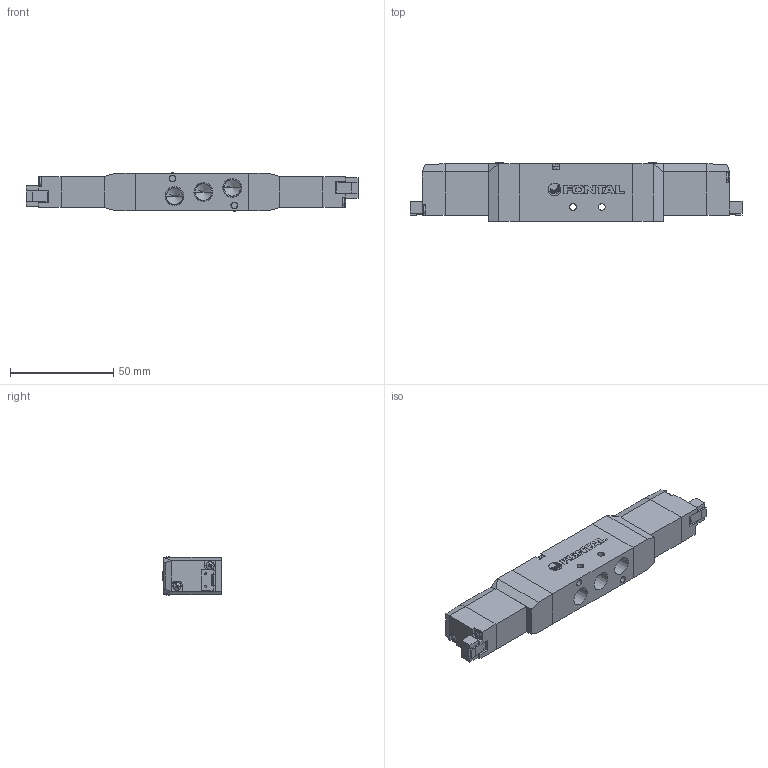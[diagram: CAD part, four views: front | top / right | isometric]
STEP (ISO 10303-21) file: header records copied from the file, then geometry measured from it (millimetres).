
FILE_DESCRIPTION (( 'STEP AP203' ), '1' );
FILE_NAME ('RCD(E¡BO)3413-01-#-SP-#.STEP', '2016-02-04T03:56:58', ( 'Sam Lin' ), ( '' ), 'SwSTEP 2.0', 'SolidWorks 2013', '' );
FILE_SCHEMA (( 'CONFIG_CONTROL_DESIGN' ));
Length unit declared in the file: metre
Products named in the file (10): PC13-8; PC13-9; ISO 7045 - M2 x 10; PC13-3-3413-B; PC13-MARK; RCD(E、O)3413-01-#-SP-#; ISO 7045 - M3 x 20; PC13-6; PC5-6; PC13-7
Assembly tree (18 placements, depth 2):
  RCD(E、O)3413-01-#-SP-#
    PC13-MARK
    ISO 7045 - M3 x 20  x2
    PC13-6  x2
    PC5-6  x2
    PC13-7  x2
    PC13-8  x2
    PC13-9  x2
    ISO 7045 - M2 x 10  x4
    PC13-3-3413-B
Bounding box: 161 x 28.5 x 18.6 mm (x, y, z)
Volume: 62272.1 mm3; surface area: 24206.8 mm2
Topology: 26 solids, 26 shells, 616 faces, 1515 edges, 949 vertices
Faces by surface type: plane 390, cylinder 96, cone 86, bspline 44
Entity records: 11579 total; most frequent: CARTESIAN_POINT 2299, ORIENTED_EDGE 1654, DIRECTION 1629, EDGE_CURVE 827, AXIS2_PLACEMENT_3D 544, LINE 541, VECTOR 541, VERTEX_POINT 534
